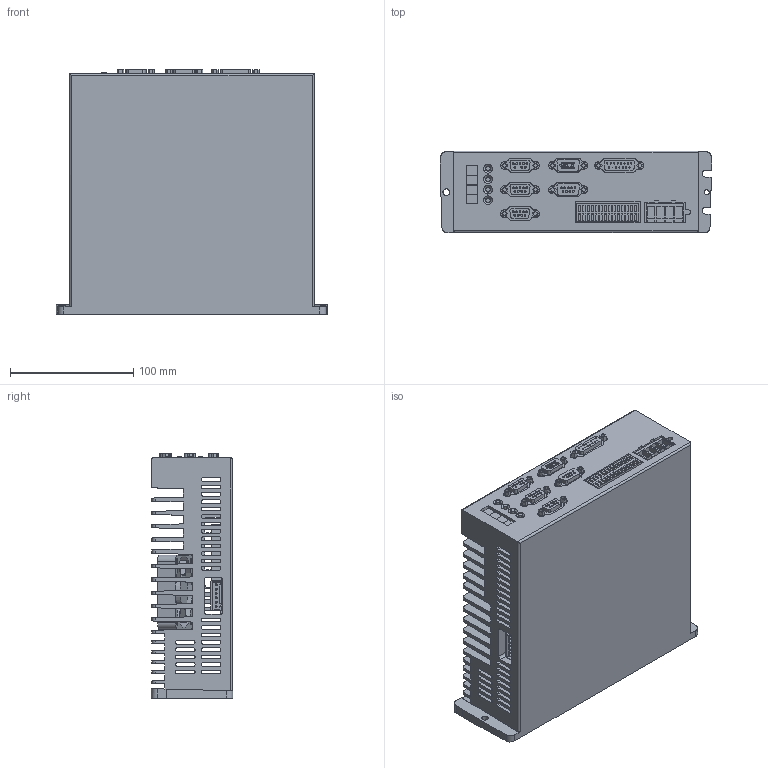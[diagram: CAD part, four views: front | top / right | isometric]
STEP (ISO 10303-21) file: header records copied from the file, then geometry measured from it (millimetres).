
FILE_DESCRIPTION((''),'2;1');
FILE_NAME('JD430-JD620_3D_ASM','2022-03-28T16:20:35',('RD0058'),(''),'CREO PARAMETRIC BY PTC INC, 2016510','CREO PARAMETRIC BY PTC INC, 2016510','');
FILE_SCHEMA(('CONFIG_CONTROL_DESIGN','SHAPE_APPEARANCE_LAYERS_GROUPS'));
Length unit declared in the file: millimetre
Products named in the file (23): MSBR-22; MSBR-21; MSBR-20; MSBR-19; MSBR-18; MSBR-17; MSBR-16; MSBR-15; MSBR-14; MSBR-13; MSBR-12; MSBR-11; MSBR-10; MSBR-9; MSBR-8; MSBR-7; MSBR-6; MSBR-5; MSBR-4; MSBR-3; MSBR-2; MSBR-1; JD430-JD620_3D_ASM
Assembly tree (22 placements, depth 2):
  JD430-JD620_3D_ASM
    MSBR-22
    MSBR-21
    MSBR-20
    MSBR-19
    MSBR-18
    MSBR-17
    MSBR-16
    MSBR-15
    MSBR-14
    MSBR-13
    MSBR-12
    MSBR-11
    MSBR-10
    MSBR-9
    MSBR-8
    MSBR-7
    MSBR-6
    MSBR-5
    MSBR-4
    MSBR-3
    MSBR-2
    MSBR-1
Bounding box: 220.14 x 66 x 198.47 mm (x, y, z)
Volume: 1618256.8 mm3; surface area: 476431.9 mm2
Topology: 22 solids, 22 shells, 1141 faces, 3137 edges, 2090 vertices
Faces by surface type: plane 715, cylinder 417, cone 8, extrusion 1
Entity records: 45568 total; most frequent: CARTESIAN_POINT 6881, ORIENTED_EDGE 6274, DIRECTION 6216, EDGE_CURVE 3137, VECTOR 2262, LINE 2261, VERTEX_POINT 2090, AXIS2_PLACEMENT_3D 1977
